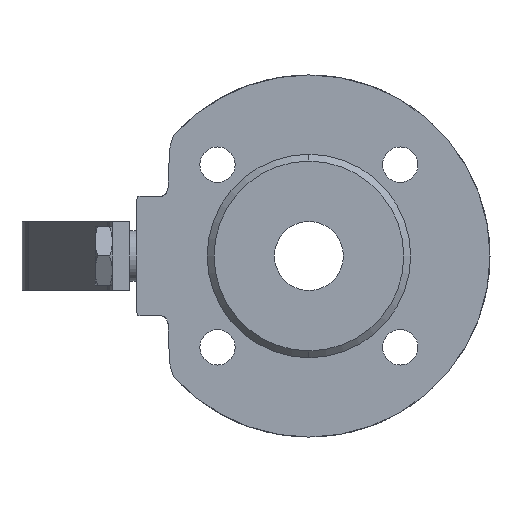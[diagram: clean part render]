
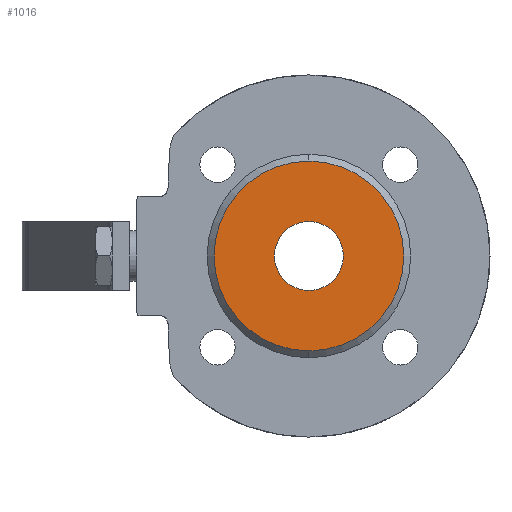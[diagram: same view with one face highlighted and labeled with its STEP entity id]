
A CAD part, left-side view. The second image highlights one B-rep face of the part: STEP entity #1016.
In plain terms, the highlighted planar face has unit normal (-1, 0, 0).
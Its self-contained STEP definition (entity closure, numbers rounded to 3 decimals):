
#426 = ORIENTED_EDGE ( 'NONE', *, *, #1046, .T. ) ;
#1016 = ADVANCED_FACE ( 'NONE', ( #8541, #8540 ), #8551, .F. ) ;
#1017 = ORIENTED_EDGE ( 'NONE', *, *, #3604, .T. ) ;
#1022 = EDGE_LOOP ( 'NONE', ( #426, #1017 ) ) ;
#1038 = ORIENTED_EDGE ( 'NONE', *, *, #5659, .F. ) ;
#1045 = EDGE_LOOP ( 'NONE', ( #1048, #1038 ) ) ;
#1046 = EDGE_CURVE ( 'NONE', #3514, #3605, #8528, .T. ) ;
#1048 = ORIENTED_EDGE ( 'NONE', *, *, #6325, .F. ) ;
#1404 = DIRECTION ( 'NONE',  ( 0., 0., 1. ) ) ;
#1405 = DIRECTION ( 'NONE',  ( -1., 0., 0. ) ) ;
#1406 = CARTESIAN_POINT ( 'NONE',  ( -20., 0., 0. ) ) ;
#1407 = AXIS2_PLACEMENT_3D ( 'NONE', #1406, #1405, #1404 ) ;
#1408 = CIRCLE ( 'NONE', #1407, 10. ) ;
#3514 = VERTEX_POINT ( 'NONE', #4815 ) ;
#3604 = EDGE_CURVE ( 'NONE', #3605, #3514, #11645, .T. ) ;
#3605 = VERTEX_POINT ( 'NONE', #11640 ) ;
#4815 = CARTESIAN_POINT ( 'NONE',  ( -20., 0., -27.5 ) ) ;
#5261 = CARTESIAN_POINT ( 'NONE',  ( -20., 0., -10. ) ) ;
#5304 = CARTESIAN_POINT ( 'NONE',  ( -20., 0., 10. ) ) ;
#5305 = DIRECTION ( 'NONE',  ( 0., 0., 1. ) ) ;
#5306 = DIRECTION ( 'NONE',  ( -1., 0., 0. ) ) ;
#5307 = CARTESIAN_POINT ( 'NONE',  ( -20., 0., 0. ) ) ;
#5308 = AXIS2_PLACEMENT_3D ( 'NONE', #5307, #5306, #5305 ) ;
#5309 = CIRCLE ( 'NONE', #5308, 10. ) ;
#5642 = VERTEX_POINT ( 'NONE', #5261 ) ;
#5659 = EDGE_CURVE ( 'NONE', #5642, #5660, #5309, .T. ) ;
#5660 = VERTEX_POINT ( 'NONE', #5304 ) ;
#6325 = EDGE_CURVE ( 'NONE', #5660, #5642, #1408, .T. ) ;
#8524 = DIRECTION ( 'NONE',  ( 0., 0., 1. ) ) ;
#8525 = DIRECTION ( 'NONE',  ( -1., 0., 0. ) ) ;
#8526 = CARTESIAN_POINT ( 'NONE',  ( -20., 0., 0. ) ) ;
#8527 = AXIS2_PLACEMENT_3D ( 'NONE', #8526, #8525, #8524 ) ;
#8528 = CIRCLE ( 'NONE', #8527, 27.5 ) ;
#8535 = AXIS2_PLACEMENT_3D ( 'NONE', #8557, #8556, #8555 ) ;
#8540 = FACE_OUTER_BOUND ( 'NONE', #1022, .T. ) ;
#8541 = FACE_BOUND ( 'NONE', #1045, .T. ) ;
#8551 = PLANE ( 'NONE',  #8535 ) ;
#8555 = DIRECTION ( 'NONE',  ( 0., 0., -1. ) ) ;
#8556 = DIRECTION ( 'NONE',  ( 1., 0., 0. ) ) ;
#8557 = CARTESIAN_POINT ( 'NONE',  ( -20., 27.5, 0. ) ) ;
#11640 = CARTESIAN_POINT ( 'NONE',  ( -20., 0., 27.5 ) ) ;
#11641 = DIRECTION ( 'NONE',  ( 0., 0., 1. ) ) ;
#11642 = DIRECTION ( 'NONE',  ( -1., 0., 0. ) ) ;
#11643 = CARTESIAN_POINT ( 'NONE',  ( -20., 0., 0. ) ) ;
#11644 = AXIS2_PLACEMENT_3D ( 'NONE', #11643, #11642, #11641 ) ;
#11645 = CIRCLE ( 'NONE', #11644, 27.5 ) ;
